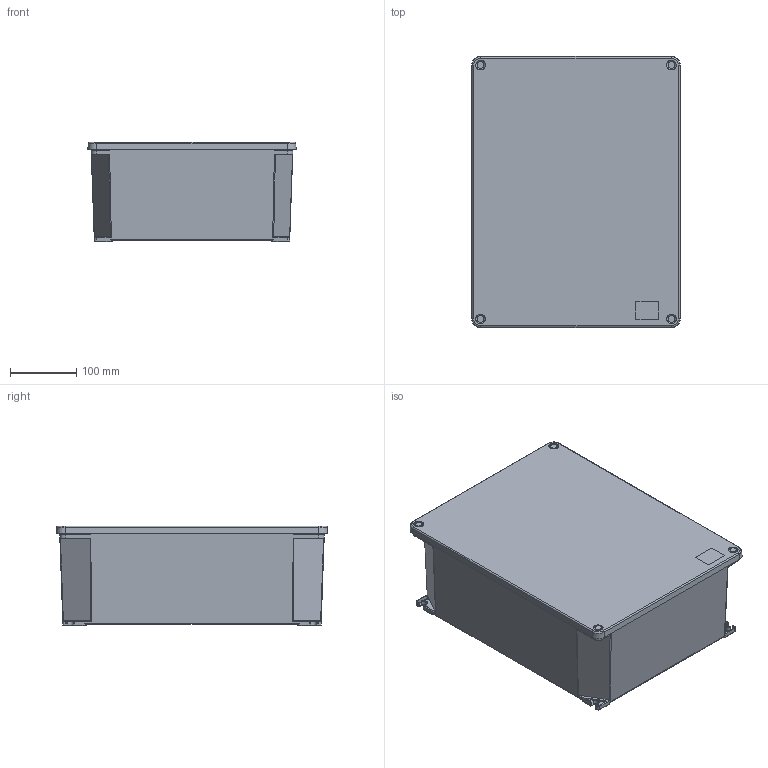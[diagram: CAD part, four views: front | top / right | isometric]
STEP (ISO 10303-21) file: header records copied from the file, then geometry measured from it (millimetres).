
FILE_DESCRIPTION(/* description */ (''),/* implementation_level */ '2;1');
FILE_NAME(/* name */ '4001361.stp',/* time_stamp */ '2016-09-22T09:37:40+02:00',/* author */ (''),/* organization */ (''),/* preprocessor_version */ 'ST-DEVELOPER v16',/* originating_system */ 'SIEMENS PLM Software NX 11.0',/* authorisation */ '');
FILE_SCHEMA (('AUTOMOTIVE_DESIGN { 1 0 10303 214 3 1 1 1 }'));
Length unit declared in the file: millimetre
Products named in the file (1): 4001361_LINKEDEXT_jt
Bounding box: 315 x 410 x 150.5 mm (x, y, z)
Surface area: 455586.8 mm2 (no closed solid volume)
Topology: 0 solids, 10 shells, 217 faces, 718 edges, 488 vertices
Faces by surface type: cylinder 104, bspline 52, plane 37, cone 20, torus 4
Entity records: 12045 total; most frequent: CARTESIAN_POINT 6439, ORIENTED_EDGE 1100, DIRECTION 954, EDGE_CURVE 694, VERTEX_POINT 484, LINE 334, VECTOR 334, AXIS2_PLACEMENT_3D 310
